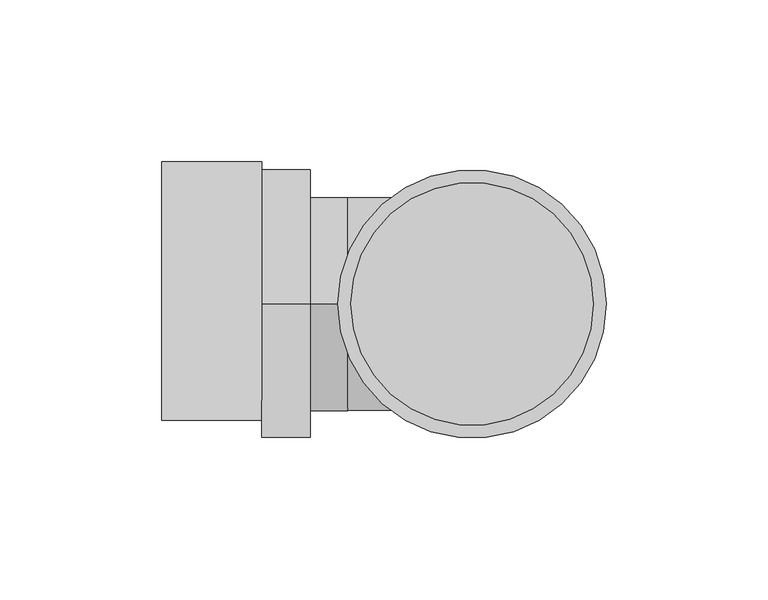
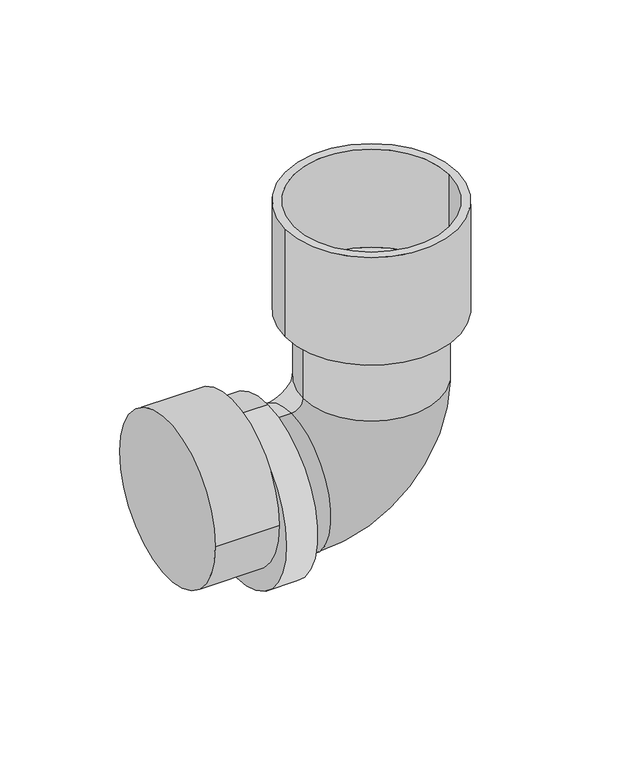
"""IFC4 building model written with IfcOpenShell, lengths in millimetres: duct fitting geometry, NLRS_57_DUF_UN_connection piece round bend_M&G : ø75 ø92."""

from ifc_helpers import new_model, si_unit, point, frame, origin, place, context, project, spatial, polyline, circle_curve, ellipse_curve, trimmed, source, transform, mapped, element, save
from ifc_brep_helpers import plane_surface, cylinder_surface, revolved_surface, advanced_brep


def duct_fitting_1cda5c5c(model_context):
    return source(origin(), model_context, "Body", "AdvancedBrep", [
        advanced_brep(
        [(-65.0, 44.0, 0.0), (-65.0, -28.8311032, 22.8499161), (-65.0, 0.0, 34.5), (-65.0, 40.3541801, -16.6845315), (-96.0, 44.0, 0.0), (-96.0, -36.0, 0.0), (41.5, 0.0, 66.0), (-41.5, 0.0, 66.0), (-33.0, 0.0, 66.0), (33.0, 0.0, 66.0), (41.5, 0.0, 121.0), (-41.5, 0.0, 121.0), (37.5, 0.0, 121.0), (-37.5, 0.0, 121.0), (-65.0, 0.0, -48.5), (-65.0, -36.0, 0.0), (-38.5218613, 0.0, 26.0), (-38.5218613, 0.0, -40.0), (33.0, 0.0, 31.5218613), (-33.0, 0.0, 31.5218613), (37.5, 0.0, 71.0), (-37.5, 0.0, 71.0), (-50.0, 0.0, 34.5), (-50.0, 0.0, -48.5), (-50.0, 0.0, -40.0), (-50.0, 0.0, 26.0)],
        [
            (0, 1, circle_curve(frame((-65.0, 4.0, 0.0), z_axis=(1.0, 0.0, 0.0), x_axis=(0.0, -1.0, 0.0)), 40.0)),
            (1, 2, circle_curve(frame((-65.0, 0.0, -7.0), z_axis=(-1.0, 0.0, 0.0), x_axis=(0.0, 0.0, -1.0)), 41.5)),
            (2, 3, circle_curve(frame((-65.0, 0.0, -7.0), z_axis=(-1.0, 0.0, 0.0), x_axis=(0.0, 0.0, -1.0)), 41.5)),
            (3, 0, circle_curve(frame((-65.0, 4.0, 0.0), z_axis=(1.0, 0.0, 0.0), x_axis=(0.0, -1.0, 0.0)), 40.0)),
            (4, 5, circle_curve(frame((-96.0, 4.0, 0.0), z_axis=(-1.0, 0.0, 0.0), x_axis=(0.0, -1.0, 0.0)), 40.0)),
            (5, 4, circle_curve(frame((-96.0, 4.0, 0.0), z_axis=(-1.0, 0.0, 0.0), x_axis=(0.0, -1.0, 0.0)), 40.0)),
            (6, 7, circle_curve(frame((0.0, 0.0, 66.0), z_axis=(0.0, 0.0, -1.0), x_axis=(-1.0, 0.0, 0.0)), 41.5)),
            (7, 6, circle_curve(frame((0.0, 0.0, 66.0), z_axis=(0.0, 0.0, -1.0), x_axis=(-1.0, 0.0, 0.0)), 41.5)),
            (8, 9, circle_curve(frame((0.0, 0.0, 66.0), z_axis=(0.0, 0.0, 1.0), x_axis=(-1.0, 0.0, 0.0)), 33.0)),
            (9, 8, circle_curve(frame((0.0, 0.0, 66.0), z_axis=(0.0, 0.0, 1.0), x_axis=(-1.0, 0.0, 0.0)), 33.0)),
            (10, 11, circle_curve(frame((0.0, 0.0, 121.0), z_axis=(0.0, 0.0, 1.0), x_axis=(-1.0, 0.0, 0.0)), 41.5)),
            (11, 10, circle_curve(frame((0.0, 0.0, 121.0), z_axis=(0.0, 0.0, 1.0), x_axis=(-1.0, 0.0, 0.0)), 41.5)),
            (12, 13, circle_curve(frame((0.0, 0.0, 121.0), z_axis=(0.0, 0.0, -1.0), x_axis=(-1.0, 0.0, 0.0)), 37.5)),
            (13, 12, circle_curve(frame((0.0, 0.0, 121.0), z_axis=(0.0, 0.0, -1.0), x_axis=(-1.0, 0.0, 0.0)), 37.5)),
            (3, 14, circle_curve(frame((-65.0, 0.0, -7.0), z_axis=(-1.0, 0.0, 0.0), x_axis=(0.0, 0.0, -1.0)), 41.5)),
            (14, 1, circle_curve(frame((-65.0, 0.0, -7.0), z_axis=(-1.0, 0.0, 0.0), x_axis=(0.0, 0.0, -1.0)), 41.5)),
            (1, 15, circle_curve(frame((-65.0, 4.0, 0.0), z_axis=(1.0, 0.0, 0.0), x_axis=(0.0, -1.0, 0.0)), 40.0)),
            (15, 3, circle_curve(frame((-65.0, 4.0, 0.0), z_axis=(1.0, 0.0, 0.0), x_axis=(0.0, -1.0, 0.0)), 40.0)),
            (16, 17, circle_curve(frame((-38.5218613, 0.0, -7.0), z_axis=(1.0, 0.0, 0.0), x_axis=(0.0, 0.0, 1.0)), 33.0)),
            (17, 18, circle_curve(frame((-38.5218613, 0.0, 31.5218613), z_axis=(0.0, -1.0, 0.0), x_axis=(0.0, 0.0, -1.0)), 71.5218613)),
            (18, 19, circle_curve(frame((0.0, 0.0, 31.5218613), z_axis=(0.0, 0.0, -1.0), x_axis=(-1.0, 0.0, 0.0)), 33.0)),
            (19, 16, circle_curve(frame((-38.5218613, 0.0, 31.5218613), z_axis=(0.0, 1.0, 0.0), x_axis=(0.0, 0.0, -1.0)), 5.5218613)),
            (17, 16, circle_curve(frame((-38.5218613, 0.0, -7.0), z_axis=(1.0, 0.0, 0.0), x_axis=(0.0, 0.0, 1.0)), 33.0)),
            (19, 18, circle_curve(frame((0.0, 0.0, 31.5218613), z_axis=(0.0, 0.0, -1.0), x_axis=(-1.0, 0.0, 0.0)), 33.0)),
            (18, 9),
            (8, 19),
            (6, 10),
            (11, 7),
            (5, 15),
            (0, 4),
            (20, 21, circle_curve(frame((0.0, 0.0, 71.0), z_axis=(0.0, 0.0, 1.0), x_axis=(-1.0, 0.0, 0.0)), 37.5)),
            (21, 20, circle_curve(frame((0.0, 0.0, 71.0), z_axis=(0.0, 0.0, 1.0), x_axis=(-1.0, 0.0, 0.0)), 37.5)),
            (21, 13),
            (12, 20),
            (22, 23, circle_curve(frame((-50.0, 0.0, -7.0), z_axis=(1.0, 0.0, 0.0), x_axis=(0.0, 0.0, -1.0)), 41.5)),
            (23, 22, circle_curve(frame((-50.0, 0.0, -7.0), z_axis=(1.0, 0.0, 0.0), x_axis=(0.0, 0.0, -1.0)), 41.5)),
            (24, 25, circle_curve(frame((-50.0, 0.0, -7.0), z_axis=(-1.0, 0.0, 0.0), x_axis=(0.0, 0.0, 1.0)), 33.0)),
            (25, 24, circle_curve(frame((-50.0, 0.0, -7.0), z_axis=(-1.0, 0.0, 0.0), x_axis=(0.0, 0.0, 1.0)), 33.0)),
            (22, 2),
            (14, 23),
            (16, 25),
            (24, 17),
        ],
        [
            plane_surface(frame((-65.0, 4.0, 0.0), z_axis=(1.0, 0.0, 0.0), x_axis=(0.0, 0.0, 1.0))),
            plane_surface(frame((-96.0, 4.0, 0.0), z_axis=(-1.0, 0.0, 0.0), x_axis=(0.0, 0.0, 1.0))),
            plane_surface(frame((0.0, 0.0, 66.0), z_axis=(0.0, 0.0, -1.0), x_axis=(0.0, -1.0, 0.0))),
            plane_surface(frame((0.0, 0.0, 121.0), z_axis=(0.0, 0.0, 1.0), x_axis=(0.0, -1.0, 0.0))),
            plane_surface(frame((-65.0, 0.0, -7.0), z_axis=(-1.0, 0.0, 0.0), x_axis=(0.0, -1.0, 0.0))),
            revolved_surface(trimmed(ellipse_curve(frame((-38.5218613, 0.0, -7.0), z_axis=(-1.0, 0.0, 0.0), x_axis=(0.0, 0.0, 1.0)), 33.0, 33.0), [point((-38.5218613, 0.0, -40.0))], [point((-38.5218613, 0.0, 26.0))], True, "CARTESIAN"), (-38.5218613, 0.0, 31.5218613), (0.0, -1.0, 0.0)),
            revolved_surface(trimmed(ellipse_curve(frame((-38.5218613, 0.0, -7.0), z_axis=(-1.0, 0.0, 0.0), x_axis=(0.0, 0.0, 1.0)), 33.0, 33.0), [point((-38.5218613, 0.0, 26.0))], [point((-38.5218613, 0.0, -40.0))], True, "CARTESIAN"), (-38.5218613, 0.0, 31.5218613), (0.0, -1.0, 0.0)),
            cylinder_surface(frame((0.0, 0.0, 31.5218613), z_axis=(0.0, 0.0, -1.0), x_axis=(-1.0, 0.0, 0.0)), 33.0),
            cylinder_surface(frame((0.0, 0.0, 66.0), z_axis=(0.0, 0.0, -1.0), x_axis=(-1.0, 0.0, 0.0)), 41.5),
            cylinder_surface(frame((-65.0, 4.0, 0.0), z_axis=(1.0, 0.0, 0.0), x_axis=(0.0, -1.0, 0.0)), 40.0),
            plane_surface(frame((0.0, 0.0, 71.0), z_axis=(0.0, 0.0, 1.0), x_axis=(0.0, -1.0, 0.0))),
            revolved_surface(polyline([(-37.5, 0.0, 71.0), (-37.5, 0.0, 121.0)]), (0.0, 0.0, 71.0), (0.0, 0.0, -1.0)),
            plane_surface(frame((-50.0, 0.0, -7.0), z_axis=(1.0, 0.0, 0.0), x_axis=(0.0, -1.0, 0.0))),
            cylinder_surface(frame((-50.0, 0.0, -7.0), z_axis=(1.0, 0.0, 0.0), x_axis=(0.0, 0.0, -1.0)), 41.5),
            cylinder_surface(frame((-65.0, 0.0, -7.0), z_axis=(-1.0, 0.0, 0.0), x_axis=(0.0, 0.0, 1.0)), 33.0),
        ],
        [
            (0, [[1, 2, 3, 4]]),
            (1, [[5, 6]]),
            (2, [[7, 8], [9, 10]]),
            (3, [[11, 12], [13, 14]]),
            (4, [[15, 16, 17, 18]]),
            (5, [[19, 20, 21, 22]]),
            (6, [[23, -22, 24, -20]]),
            (7, [[-21, 25, -9, 26]]),
            (7, [[-24, -26, -10, -25]]),
            (8, [[-7, 27, -12, 28]]),
            (8, [[-8, -28, -11, -27]]),
            (9, [[-6, 29, -17, -1, 30]]),
            (9, [[-5, -30, -4, -18, -29]]),
            (10, [[31, 32]]),
            (11, [[-32, 33, -13, 34]]),
            (11, [[-31, -34, -14, -33]]),
            (12, [[35, 36], [37, 38]]),
            (13, [[-35, 39, -2, -16, 40]]),
            (13, [[-36, -40, -15, -3, -39]]),
            (14, [[-19, 41, -37, 42]]),
            (14, [[-23, -42, -38, -41]]),
        ],
    ),
    ])


if __name__ == "__main__":
    model = new_model("IFC4")
    model_context = context("Model", 3, world=origin())
    ifc_project = project(units=[si_unit("LENGTHUNIT", "METRE", prefix="MILLI")], contexts=[model_context])
    site = spatial("IfcSite", under=ifc_project)
    building = spatial("IfcBuilding", under=site)
    placement = place(None, origin())
    duct_fitting_shape = duct_fitting_1cda5c5c(model_context)
    element("IfcDuctFitting", 1, ObjectType="NLRS_57_DUF_UN_connection piece round bend_M&G : ø75 ø92", at=placement, inside=building, context=model_context, shape_type="MappedRepresentation", body=[
        mapped(duct_fitting_shape, transform((0.0, 0.0, 0.0), x_axis=(1.0, 0.0, 0.0), y_axis=(0.0, 1.0, 0.0), z_axis=(0.0, 0.0, 1.0))),
    ])
    save(model, "model.ifc")
